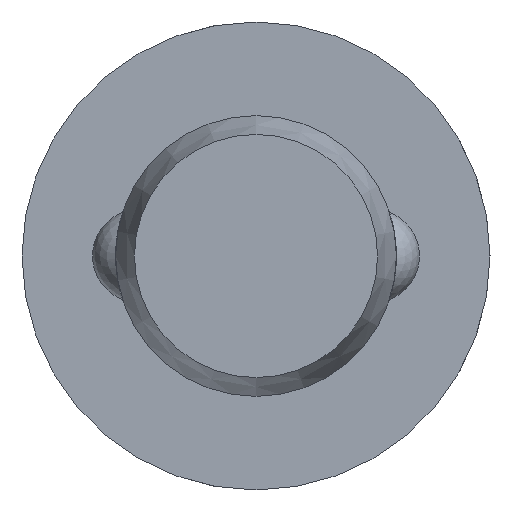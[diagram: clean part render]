
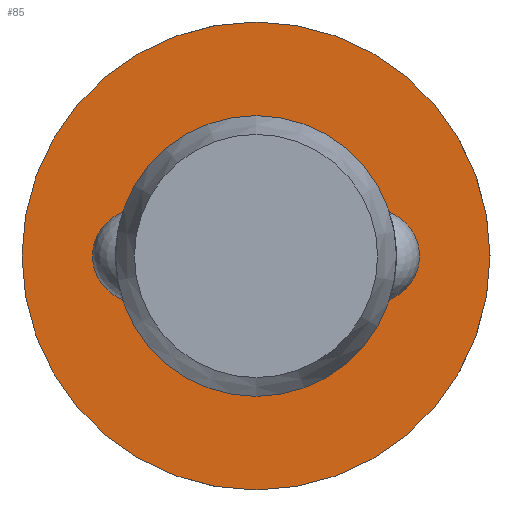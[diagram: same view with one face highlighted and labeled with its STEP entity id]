
A CAD part, left-side view. The second image highlights one B-rep face of the part: STEP entity #85.
In plain terms, the highlighted planar face has unit normal (-1, 0, 0).
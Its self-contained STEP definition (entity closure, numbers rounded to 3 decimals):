
#85 = ADVANCED_FACE( '', ( #131, #132 ), #133, .F. );
#131 = FACE_OUTER_BOUND( '', #204, .T. );
#132 = FACE_BOUND( '', #205, .T. );
#133 = PLANE( '', #206 );
#204 = EDGE_LOOP( '', ( #322 ) );
#205 = EDGE_LOOP( '', ( #323 ) );
#206 = AXIS2_PLACEMENT_3D( '', #324, #325, #326 );
#322 = ORIENTED_EDGE( '', *, *, #470, .F. );
#323 = ORIENTED_EDGE( '', *, *, #467, .T. );
#324 = CARTESIAN_POINT( '', ( 32., 3., 0. ) );
#325 = DIRECTION( '', ( 1., 0., 0. ) );
#326 = DIRECTION( '', ( 0., 0., -1. ) );
#467 = EDGE_CURVE( '', #541, #541, #542, .T. );
#470 = EDGE_CURVE( '', #547, #547, #548, .T. );
#541 = VERTEX_POINT( '', #749 );
#542 = CIRCLE( '', #750, 3. );
#547 = VERTEX_POINT( '', #817 );
#548 = CIRCLE( '', #818, 5. );
#749 = CARTESIAN_POINT( '', ( 32., 0., -3. ) );
#750 = AXIS2_PLACEMENT_3D( '', #897, #898, #899 );
#817 = CARTESIAN_POINT( '', ( 32., 0., -5. ) );
#818 = AXIS2_PLACEMENT_3D( '', #900, #901, #902 );
#897 = CARTESIAN_POINT( '', ( 32., 0., 0. ) );
#898 = DIRECTION( '', ( 1., 0., 0. ) );
#899 = DIRECTION( '', ( 0., 0., -1. ) );
#900 = CARTESIAN_POINT( '', ( 32., 0., 0. ) );
#901 = DIRECTION( '', ( 1., 0., 0. ) );
#902 = DIRECTION( '', ( 0., 0., -1. ) );
